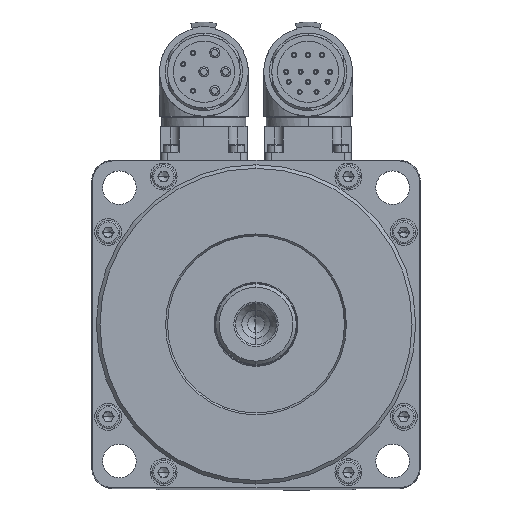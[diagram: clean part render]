
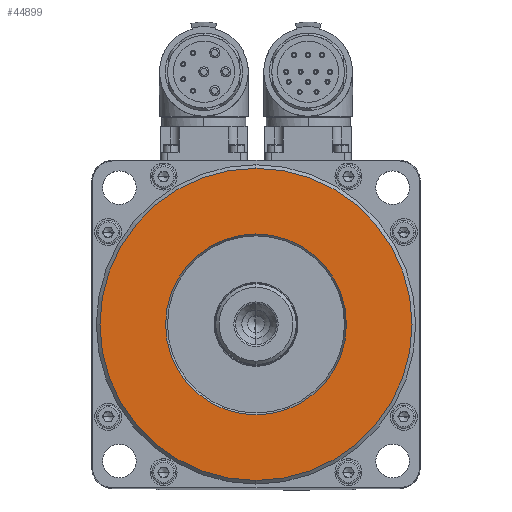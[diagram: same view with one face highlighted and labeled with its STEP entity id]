
A CAD part, top view. The second image highlights one B-rep face of the part: STEP entity #44899.
In plain terms, the highlighted planar face has unit normal (0, 0, 1).
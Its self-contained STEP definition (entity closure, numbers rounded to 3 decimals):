
#519 = EDGE_LOOP ( 'NONE', ( #22602, #15603 ) ) ;
#2272 = CARTESIAN_POINT ( 'NONE',  ( 0., 46.433, 75.864 ) ) ;
#4221 = DIRECTION ( 'NONE',  ( 0., 1., 0. ) ) ;
#4532 = CARTESIAN_POINT ( 'NONE',  ( 0., -46.433, 75.864 ) ) ;
#5593 = DIRECTION ( 'NONE',  ( 0., 0., -1. ) ) ;
#6179 = AXIS2_PLACEMENT_3D ( 'NONE', #17675, #52402, #22876 ) ;
#9438 = CARTESIAN_POINT ( 'NONE',  ( 0., 0., 75.864 ) ) ;
#9711 = VERTEX_POINT ( 'NONE', #11210 ) ;
#11176 = CIRCLE ( 'NONE', #28081, 26.908 ) ;
#11210 = CARTESIAN_POINT ( 'NONE',  ( 0., 26.908, 75.864 ) ) ;
#13339 = EDGE_LOOP ( 'NONE', ( #16826, #46446 ) ) ;
#14737 = EDGE_CURVE ( 'NONE', #33745, #38480, #42593, .T. ) ;
#15603 = ORIENTED_EDGE ( 'NONE', *, *, #58951, .T. ) ;
#16503 = DIRECTION ( 'NONE',  ( 0., 0., 1. ) ) ;
#16826 = ORIENTED_EDGE ( 'NONE', *, *, #54720, .T. ) ;
#16925 = CARTESIAN_POINT ( 'NONE',  ( 0., 0., 75.864 ) ) ;
#17675 = CARTESIAN_POINT ( 'NONE',  ( 0., 0., 75.864 ) ) ;
#20794 = PLANE ( 'NONE',  #45163 ) ;
#21494 = VERTEX_POINT ( 'NONE', #34426 ) ;
#22602 = ORIENTED_EDGE ( 'NONE', *, *, #29483, .T. ) ;
#22876 = DIRECTION ( 'NONE',  ( 0., 1., 0. ) ) ;
#25197 = CARTESIAN_POINT ( 'NONE',  ( 0., 0., 75.864 ) ) ;
#27011 = FACE_OUTER_BOUND ( 'NONE', #13339, .T. ) ;
#28081 = AXIS2_PLACEMENT_3D ( 'NONE', #37560, #48609, #34097 ) ;
#29483 = EDGE_CURVE ( 'NONE', #21494, #9711, #11176, .T. ) ;
#30294 = CIRCLE ( 'NONE', #34237, 26.908 ) ;
#33745 = VERTEX_POINT ( 'NONE', #4532 ) ;
#34097 = DIRECTION ( 'NONE',  ( 0., 1., 0. ) ) ;
#34237 = AXIS2_PLACEMENT_3D ( 'NONE', #9438, #48501, #4221 ) ;
#34426 = CARTESIAN_POINT ( 'NONE',  ( 0., -26.908, 75.864 ) ) ;
#37560 = CARTESIAN_POINT ( 'NONE',  ( 0., 0., 75.864 ) ) ;
#38480 = VERTEX_POINT ( 'NONE', #2272 ) ;
#42593 = CIRCLE ( 'NONE', #58946, 46.433 ) ;
#44899 = ADVANCED_FACE ( 'NONE', ( #27011, #55680 ), #20794, .F. ) ;
#45163 = AXIS2_PLACEMENT_3D ( 'NONE', #25197, #5593, #55541 ) ;
#46446 = ORIENTED_EDGE ( 'NONE', *, *, #14737, .T. ) ;
#48501 = DIRECTION ( 'NONE',  ( 0., 0., -1. ) ) ;
#48609 = DIRECTION ( 'NONE',  ( 0., 0., -1. ) ) ;
#51650 = DIRECTION ( 'NONE',  ( 0., 1., 0. ) ) ;
#52402 = DIRECTION ( 'NONE',  ( 0., 0., 1. ) ) ;
#54720 = EDGE_CURVE ( 'NONE', #38480, #33745, #55137, .T. ) ;
#55137 = CIRCLE ( 'NONE', #6179, 46.433 ) ;
#55541 = DIRECTION ( 'NONE',  ( 0., 1., 0. ) ) ;
#55680 = FACE_BOUND ( 'NONE', #519, .T. ) ;
#58946 = AXIS2_PLACEMENT_3D ( 'NONE', #16925, #16503, #51650 ) ;
#58951 = EDGE_CURVE ( 'NONE', #9711, #21494, #30294, .T. ) ;
